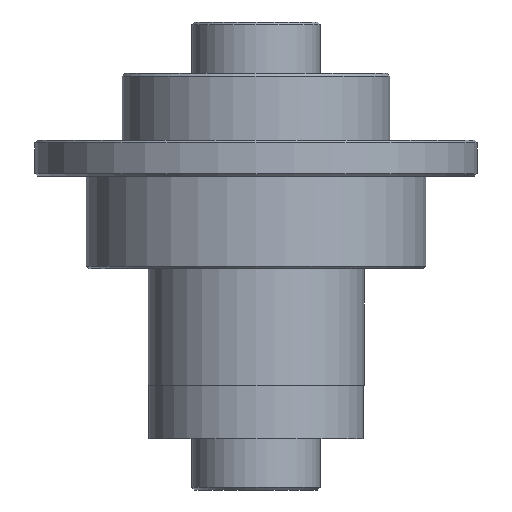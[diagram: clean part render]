
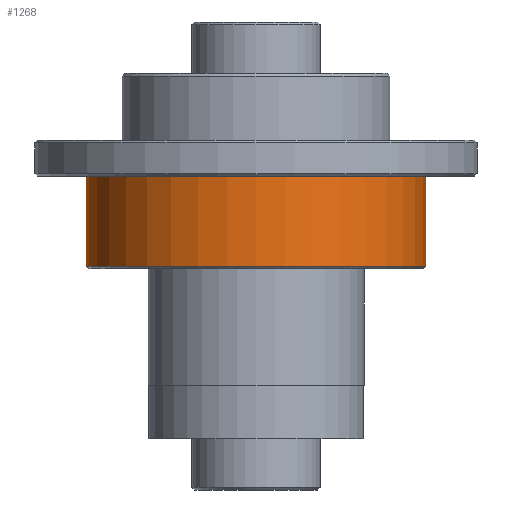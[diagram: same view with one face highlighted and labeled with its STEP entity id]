
A CAD part, front view. The second image highlights one B-rep face of the part: STEP entity #1268.
In plain terms, the highlighted cylindrical face has radius 33 mm (diameter 66 mm), a partial arc.
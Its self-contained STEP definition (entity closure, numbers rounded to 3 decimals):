
#102 = CARTESIAN_POINT ( 'NONE',  ( 33., 0., -20. ) ) ;
#201 = CARTESIAN_POINT ( 'NONE',  ( 33., 0., -37.5 ) ) ;
#415 = VERTEX_POINT ( 'NONE', #201 ) ;
#590 = VERTEX_POINT ( 'NONE', #102 ) ;
#663 = DIRECTION ( 'NONE',  ( 0., 0., 1. ) ) ;
#678 = CARTESIAN_POINT ( 'NONE',  ( -33., 0., -20. ) ) ;
#734 = CYLINDRICAL_SURFACE ( 'NONE', #1173, 33. ) ;
#739 = FACE_OUTER_BOUND ( 'NONE', #3213, .T. ) ;
#783 = CARTESIAN_POINT ( 'NONE',  ( 0., 0., 2. ) ) ;
#1052 = VERTEX_POINT ( 'NONE', #2429 ) ;
#1173 = AXIS2_PLACEMENT_3D ( 'NONE', #783, #1369, #3051 ) ;
#1268 = ADVANCED_FACE ( 'NONE', ( #739 ), #734, .T. ) ;
#1369 = DIRECTION ( 'NONE',  ( 0., 0., 1. ) ) ;
#1530 = DIRECTION ( 'NONE',  ( 0., 0., 1. ) ) ;
#1570 = CIRCLE ( 'NONE', #3082, 33. ) ;
#1615 = CIRCLE ( 'NONE', #1725, 33. ) ;
#1617 = DIRECTION ( 'NONE',  ( 0., 0., 1. ) ) ;
#1725 = AXIS2_PLACEMENT_3D ( 'NONE', #2190, #663, #2416 ) ;
#1983 = EDGE_CURVE ( 'NONE', #1052, #2907, #2965, .T. ) ;
#2004 = EDGE_CURVE ( 'NONE', #415, #590, #2926, .T. ) ;
#2190 = CARTESIAN_POINT ( 'NONE',  ( 0., 0., -37.5 ) ) ;
#2416 = DIRECTION ( 'NONE',  ( 1., 0., 0. ) ) ;
#2429 = CARTESIAN_POINT ( 'NONE',  ( -33., 0., -37.5 ) ) ;
#2472 = CARTESIAN_POINT ( 'NONE',  ( -33., 0., 2. ) ) ;
#2603 = ORIENTED_EDGE ( 'NONE', *, *, #1983, .F. ) ;
#2624 = EDGE_CURVE ( 'NONE', #1052, #415, #1615, .T. ) ;
#2628 = EDGE_CURVE ( 'NONE', #2907, #590, #1570, .T. ) ;
#2724 = DIRECTION ( 'NONE',  ( 0., 0., 1. ) ) ;
#2844 = ORIENTED_EDGE ( 'NONE', *, *, #2004, .T. ) ;
#2869 = VECTOR ( 'NONE', #1617, 1000. ) ;
#2889 = VECTOR ( 'NONE', #2724, 1000. ) ;
#2907 = VERTEX_POINT ( 'NONE', #678 ) ;
#2926 = LINE ( 'NONE', #3019, #2869 ) ;
#2944 = CARTESIAN_POINT ( 'NONE',  ( 0., 0., -20. ) ) ;
#2954 = ORIENTED_EDGE ( 'NONE', *, *, #2624, .T. ) ;
#2965 = LINE ( 'NONE', #2472, #2889 ) ;
#3019 = CARTESIAN_POINT ( 'NONE',  ( 33., 0., 2. ) ) ;
#3051 = DIRECTION ( 'NONE',  ( 1., 0., 0. ) ) ;
#3082 = AXIS2_PLACEMENT_3D ( 'NONE', #2944, #1530, #3183 ) ;
#3183 = DIRECTION ( 'NONE',  ( 1., 0., 0. ) ) ;
#3213 = EDGE_LOOP ( 'NONE', ( #2603, #2954, #2844, #3285 ) ) ;
#3285 = ORIENTED_EDGE ( 'NONE', *, *, #2628, .F. ) ;
